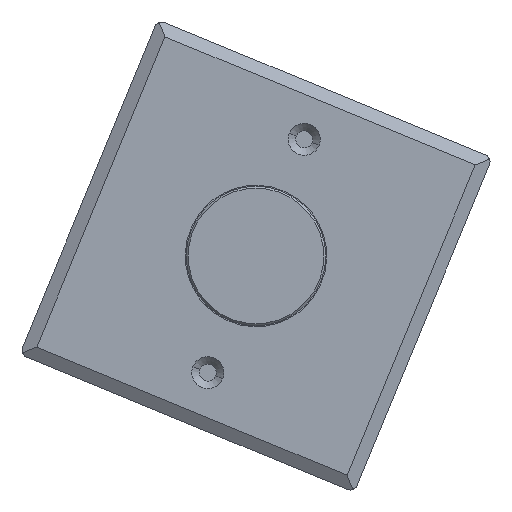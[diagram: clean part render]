
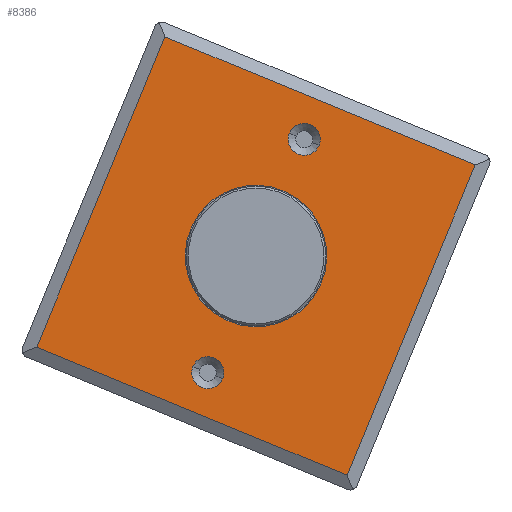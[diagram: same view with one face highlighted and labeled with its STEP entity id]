
A CAD part, left-side view. The second image highlights one B-rep face of the part: STEP entity #8386.
In plain terms, the highlighted planar face has unit normal (-1, 0, 0) as drawn and (0, -1, 0) by its records, which use the part's own axes.
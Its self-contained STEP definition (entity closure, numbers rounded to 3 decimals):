
#5 = LINE ( 'NONE', #41043, #42856 ) ;
#1630 = DIRECTION ( 'NONE',  ( 0., 0., -1. ) ) ;
#3194 = DIRECTION ( 'NONE',  ( 0., 0., -1. ) ) ;
#3400 = ORIENTED_EDGE ( 'NONE', *, *, #34472, .T. ) ;
#4185 = VERTEX_POINT ( 'NONE', #43645 ) ;
#4360 = ORIENTED_EDGE ( 'NONE', *, *, #46153, .T. ) ;
#4741 = VERTEX_POINT ( 'NONE', #25966 ) ;
#4773 = AXIS2_PLACEMENT_3D ( 'NONE', #6336, #5968, #3194 ) ;
#5189 = VERTEX_POINT ( 'NONE', #43532 ) ;
#5205 = VECTOR ( 'NONE', #1630, 1000. ) ;
#5294 = CARTESIAN_POINT ( 'NONE',  ( 44.536, 2., 0. ) ) ;
#5968 = DIRECTION ( 'NONE',  ( 0., 1., 0. ) ) ;
#6336 = CARTESIAN_POINT ( 'NONE',  ( -33.5, 2., 0. ) ) ;
#6347 = DIRECTION ( 'NONE',  ( 0., 1., 0. ) ) ;
#6941 = DIRECTION ( 'NONE',  ( 0., -1., 0. ) ) ;
#7146 = CARTESIAN_POINT ( 'NONE',  ( 0., 2., 0. ) ) ;
#8386 = ADVANCED_FACE ( 'NONE', ( #10015, #9961, #22893, #48956 ), #29057, .T. ) ;
#8872 = EDGE_LOOP ( 'NONE', ( #39306, #36621 ) ) ;
#9126 = LINE ( 'NONE', #50661, #5205 ) ;
#9799 = AXIS2_PLACEMENT_3D ( 'NONE', #43013, #6347, #22304 ) ;
#9961 = FACE_BOUND ( 'NONE', #27352, .T. ) ;
#10015 = FACE_BOUND ( 'NONE', #23581, .T. ) ;
#10162 = DIRECTION ( 'NONE',  ( 0., 1., 0. ) ) ;
#10953 = EDGE_CURVE ( 'NONE', #4741, #33213, #48835, .T. ) ;
#11448 = DIRECTION ( 'NONE',  ( 0., 0., -1. ) ) ;
#12407 = EDGE_CURVE ( 'NONE', #44354, #20980, #40169, .T. ) ;
#15447 = DIRECTION ( 'NONE',  ( 0., 1., 0. ) ) ;
#16149 = DIRECTION ( 'NONE',  ( 0., 0., -1. ) ) ;
#16462 = CARTESIAN_POINT ( 'NONE',  ( 0., 2., -18.75 ) ) ;
#16533 = AXIS2_PLACEMENT_3D ( 'NONE', #51190, #10162, #34487 ) ;
#18557 = ORIENTED_EDGE ( 'NONE', *, *, #10953, .T. ) ;
#19157 = CARTESIAN_POINT ( 'NONE',  ( 44.536, 2., 44.536 ) ) ;
#20906 = CIRCLE ( 'NONE', #26964, 4.25 ) ;
#20980 = VERTEX_POINT ( 'NONE', #41349 ) ;
#21613 = VERTEX_POINT ( 'NONE', #42700 ) ;
#21759 = ORIENTED_EDGE ( 'NONE', *, *, #42894, .T. ) ;
#22304 = DIRECTION ( 'NONE',  ( 0., 0., -1. ) ) ;
#22498 = CARTESIAN_POINT ( 'NONE',  ( 33.5, 2., -4.25 ) ) ;
#22893 = FACE_BOUND ( 'NONE', #8872, .T. ) ;
#23014 = CIRCLE ( 'NONE', #24808, 18.75 ) ;
#23163 = CIRCLE ( 'NONE', #31528, 18.75 ) ;
#23581 = EDGE_LOOP ( 'NONE', ( #4360, #37530 ) ) ;
#24808 = AXIS2_PLACEMENT_3D ( 'NONE', #28122, #35567, #11448 ) ;
#24868 = DIRECTION ( 'NONE',  ( -1., 0., 0. ) ) ;
#25598 = CARTESIAN_POINT ( 'NONE',  ( 33.5, 2., 4.25 ) ) ;
#25966 = CARTESIAN_POINT ( 'NONE',  ( -33.5, 2., -4.25 ) ) ;
#26509 = DIRECTION ( 'NONE',  ( 0., 0., 1. ) ) ;
#26903 = EDGE_CURVE ( 'NONE', #5189, #27112, #23014, .T. ) ;
#26964 = AXIS2_PLACEMENT_3D ( 'NONE', #40713, #28875, #16149 ) ;
#27112 = VERTEX_POINT ( 'NONE', #16462 ) ;
#27352 = EDGE_LOOP ( 'NONE', ( #18557, #3400 ) ) ;
#28122 = CARTESIAN_POINT ( 'NONE',  ( 0., 2., 0. ) ) ;
#28875 = DIRECTION ( 'NONE',  ( 0., 1., 0. ) ) ;
#29057 = PLANE ( 'NONE',  #31973 ) ;
#29107 = VECTOR ( 'NONE', #24868, 1000. ) ;
#29274 = EDGE_CURVE ( 'NONE', #41442, #31536, #20906, .T. ) ;
#29419 = CARTESIAN_POINT ( 'NONE',  ( 18.75, 2., 44.536 ) ) ;
#30724 = EDGE_CURVE ( 'NONE', #20980, #21613, #9126, .T. ) ;
#31008 = ORIENTED_EDGE ( 'NONE', *, *, #30724, .T. ) ;
#31371 = ORIENTED_EDGE ( 'NONE', *, *, #12407, .T. ) ;
#31528 = AXIS2_PLACEMENT_3D ( 'NONE', #7146, #15447, #31834 ) ;
#31536 = VERTEX_POINT ( 'NONE', #22498 ) ;
#31834 = DIRECTION ( 'NONE',  ( 0., 0., -1. ) ) ;
#31973 = AXIS2_PLACEMENT_3D ( 'NONE', #49607, #6941, #40158 ) ;
#33213 = VERTEX_POINT ( 'NONE', #33917 ) ;
#33917 = CARTESIAN_POINT ( 'NONE',  ( -33.5, 2., 4.25 ) ) ;
#34472 = EDGE_CURVE ( 'NONE', #33213, #4741, #53114, .T. ) ;
#34487 = DIRECTION ( 'NONE',  ( 0., 0., -1. ) ) ;
#35184 = VECTOR ( 'NONE', #26509, 1000. ) ;
#35567 = DIRECTION ( 'NONE',  ( 0., 1., 0. ) ) ;
#36621 = ORIENTED_EDGE ( 'NONE', *, *, #29274, .T. ) ;
#36665 = DIRECTION ( 'NONE',  ( 1., 0., 0. ) ) ;
#37530 = ORIENTED_EDGE ( 'NONE', *, *, #26903, .T. ) ;
#39306 = ORIENTED_EDGE ( 'NONE', *, *, #46945, .T. ) ;
#40158 = DIRECTION ( 'NONE',  ( 0., 0., -1. ) ) ;
#40169 = LINE ( 'NONE', #29419, #29107 ) ;
#40713 = CARTESIAN_POINT ( 'NONE',  ( 33.5, 2., 0. ) ) ;
#41043 = CARTESIAN_POINT ( 'NONE',  ( 18.75, 2., -44.536 ) ) ;
#41349 = CARTESIAN_POINT ( 'NONE',  ( -44.536, 2., 44.536 ) ) ;
#41442 = VERTEX_POINT ( 'NONE', #25598 ) ;
#42700 = CARTESIAN_POINT ( 'NONE',  ( -44.536, 2., -44.536 ) ) ;
#42856 = VECTOR ( 'NONE', #36665, 1000. ) ;
#42894 = EDGE_CURVE ( 'NONE', #21613, #4185, #5, .T. ) ;
#43013 = CARTESIAN_POINT ( 'NONE',  ( -33.5, 2., 0. ) ) ;
#43532 = CARTESIAN_POINT ( 'NONE',  ( 0., 2., 18.75 ) ) ;
#43645 = CARTESIAN_POINT ( 'NONE',  ( 44.536, 2., -44.536 ) ) ;
#44354 = VERTEX_POINT ( 'NONE', #19157 ) ;
#46153 = EDGE_CURVE ( 'NONE', #27112, #5189, #23163, .T. ) ;
#46945 = EDGE_CURVE ( 'NONE', #31536, #41442, #51123, .T. ) ;
#48777 = EDGE_LOOP ( 'NONE', ( #31371, #31008, #21759, #50264 ) ) ;
#48835 = CIRCLE ( 'NONE', #9799, 4.25 ) ;
#48956 = FACE_OUTER_BOUND ( 'NONE', #48777, .T. ) ;
#49607 = CARTESIAN_POINT ( 'NONE',  ( 18.75, 2., 0. ) ) ;
#50264 = ORIENTED_EDGE ( 'NONE', *, *, #51328, .T. ) ;
#50661 = CARTESIAN_POINT ( 'NONE',  ( -44.536, 2., 0. ) ) ;
#51123 = CIRCLE ( 'NONE', #16533, 4.25 ) ;
#51190 = CARTESIAN_POINT ( 'NONE',  ( 33.5, 2., 0. ) ) ;
#51328 = EDGE_CURVE ( 'NONE', #4185, #44354, #52744, .T. ) ;
#52744 = LINE ( 'NONE', #5294, #35184 ) ;
#53114 = CIRCLE ( 'NONE', #4773, 4.25 ) ;
